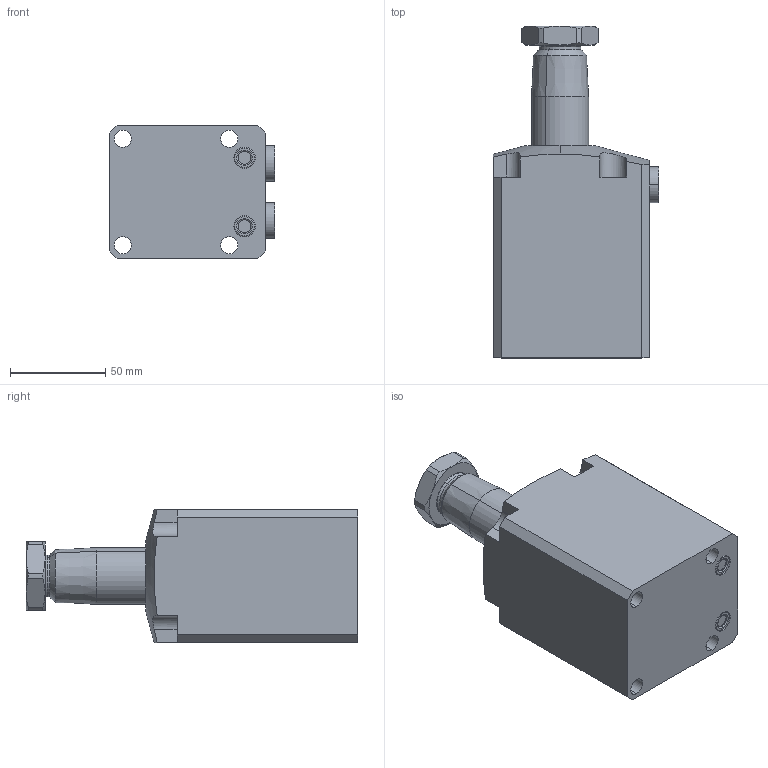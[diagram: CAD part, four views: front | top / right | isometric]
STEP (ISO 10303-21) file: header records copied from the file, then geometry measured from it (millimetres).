
FILE_DESCRIPTION(/* description */ (''),/* implementation_level */ '2;1');
FILE_NAME(/* name */ 'BRC10-RN60.stp',/* time_stamp */ '2025-01-05T08:36:19+08:00',/* author */ (''),/* organization */ (''),/* preprocessor_version */ 'ST-DEVELOPER v16.7',/* originating_system */ 'SIEMENS PLM Software NX 12.0',/* authorisation */ '');
FILE_SCHEMA (('AUTOMOTIVE_DESIGN { 1 0 10303 214 3 1 1 1 }'));
Length unit declared in the file: millimetre
Products named in the file (5): BRC10-RN60-04; BRC10-RN60-03; BRC10-RN60-02; BRC10-RN60-01; BRC10-RN60_stp
Assembly tree (5 placements, depth 2):
  BRC10-RN60_stp
    BRC10-RN60-01
    BRC10-RN60-02
    BRC10-RN60-03  x2
    BRC10-RN60-04
Bounding box: 86.8 x 174.4 x 70 mm (x, y, z)
Volume: 616889 mm3; surface area: 70398.6 mm2
Topology: 7 solids, 7 shells, 176 faces, 401 edges, 248 vertices
Faces by surface type: plane 68, cylinder 57, cone 34, torus 16, sphere 1
Full cylindrical faces by diameter (mm): 13 x2
Entity records: 4660 total; most frequent: CARTESIAN_POINT 957, DIRECTION 778, ORIENTED_EDGE 712, EDGE_CURVE 356, AXIS2_PLACEMENT_3D 313, VERTEX_POINT 222, EDGE_LOOP 180, ADVANCED_FACE 156
